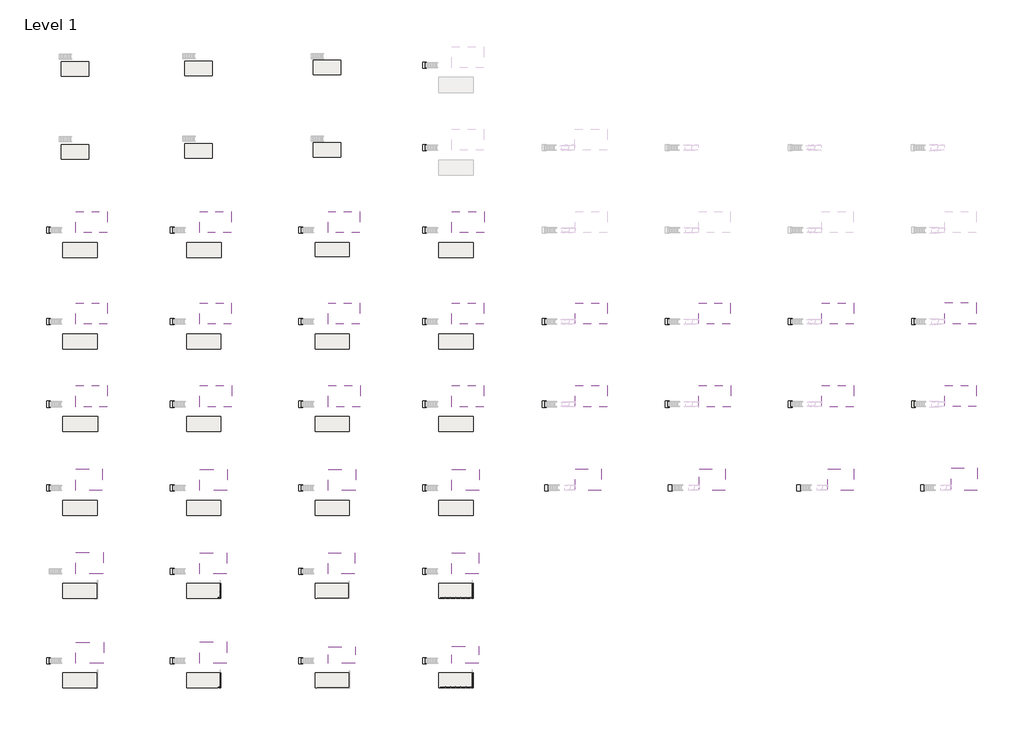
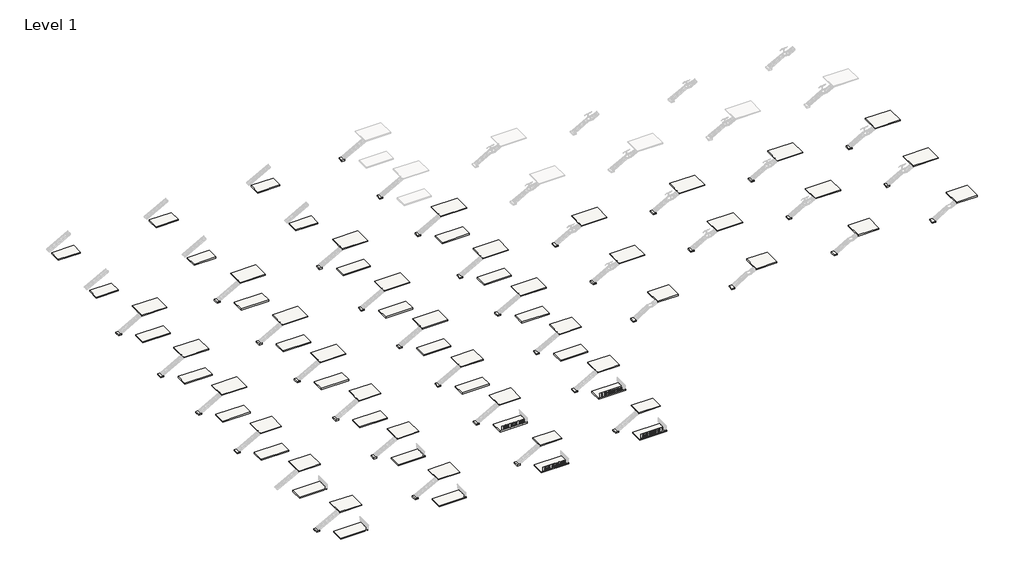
# One storey, part 1 of 36: 103 slabs.
"""IFC4 building model written with IfcOpenShell, lengths in millimetres."""

from ifc_helpers import new_model, si_unit, frame, origin, place, context, project, spatial, polyline, outline, extrude, element, save

model = new_model("IFC4")

# Units and contexts
model_context = context("Model", 3, world=origin())
ifc_project = project(units=[si_unit("LENGTHUNIT", "METRE", prefix="MILLI")], contexts=[model_context])

# Site, building, storey
site = spatial("IfcSite", under=ifc_project)
building = spatial("IfcBuilding", under=site)
storey = spatial("IfcBuildingStorey", under=building, Name="Level 1", Elevation=0.0)

# Slabs
placement = place(None, origin())
element("IfcSlab", 1, ObjectType="Generic", at=placement, inside=storey, context=model_context, shape_type="SweptSolid", body=[
    extrude(outline(polyline([(-2908.0966851, 15795.2395941), (-9164.1164794, 15795.2395941), (-9164.1164794, 19986.2395941), (-2908.0966851, 19986.2395941), (-2908.0966851, 15795.2395941)])), frame((0.0, 0.0, 2876.55), z_axis=(0.0, 0.0, 1.0), x_axis=(1.0, 0.0, 0.0)), (0.0, 0.0, 1.0), 171.45),
])
element("IfcSlab", 2, ObjectType="Generic", at=placement, inside=storey, context=model_context, shape_type="SweptSolid", body=[
    extrude(outline(polyline([(21837.4572927, 15795.2395941), (15512.8572927, 15795.2395941), (15512.8572927, 20018.7009998), (21837.4572927, 20018.7009998), (21837.4572927, 15795.2395941)])), frame((0.0, 0.0, 2876.55), z_axis=(0.0, 0.0, 1.0), x_axis=(1.0, 0.0, 0.0)), (0.0, 0.0, 1.0), 171.45),
])
element("IfcSlab", 3, ObjectType="Generic", at=placement, inside=storey, context=model_context, shape_type="SweptSolid", body=[
    extrude(outline(polyline([(47448.5953871, 15795.2395941), (41116.0572927, 15795.2395941), (41116.0572927, 20018.7009998), (47448.5953871, 20018.7009998), (47448.5953871, 15795.2395941)])), frame((0.0, 0.0, 2876.55), z_axis=(0.0, 0.0, 1.0), x_axis=(1.0, 0.0, 0.0)), (0.0, 0.0, 1.0), 171.45),
])
element("IfcSlab", 4, ObjectType="Generic", at=placement, inside=storey, context=model_context, shape_type="SweptSolid", body=[
    extrude(outline(polyline([(-3873.8536495, -35644.281782), (-9164.1164794, -35644.281782), (-9164.1164794, -31370.0203763), (-3873.8536495, -31370.0203763), (-3873.8536495, -35644.281782)])), frame((0.0, 0.0, 2876.55), z_axis=(0.0, 0.0, 1.0), x_axis=(1.0, 0.0, 0.0)), (0.0, 0.0, 1.0), 171.45),
])
element("IfcSlab", 5, ObjectType="Generic", at=placement, inside=storey, context=model_context, shape_type="SweptSolid", body=[
    extrude(outline(polyline([(46653.2578871, -35644.281782), (41116.0572927, -35644.281782), (41116.0572927, -31420.8203763), (46653.2578871, -31420.8203763), (46653.2578871, -35644.281782)])), frame((0.0, 0.0, 2876.55), z_axis=(0.0, 0.0, 1.0), x_axis=(1.0, 0.0, 0.0)), (0.0, 0.0, 1.0), 171.45),
])
element("IfcSlab", 6, ObjectType="Generic", at=placement, inside=storey, context=model_context, shape_type="SweptSolid", body=[
    extrude(outline(polyline([(21056.4072927, -35644.281782), (15512.8572927, -35644.281782), (15512.8572927, -31420.8203763), (21056.4072927, -31420.8203763), (21056.4072927, -35644.281782)])), frame((0.0, 0.0, 2876.55), z_axis=(0.0, 0.0, 1.0), x_axis=(1.0, 0.0, 0.0)), (0.0, 0.0, 1.0), 171.45),
])
element("IfcSlab", 7, ObjectType="Generic", at=placement, inside=storey, context=model_context, shape_type="SweptSolid", body=[
    extrude(outline(polyline([(-2909.3666851, -2451.5855758), (-9164.1164794, -2451.5855758), (-9164.1164794, 1816.6052299), (-2909.3666851, 1816.6052299), (-2909.3666851, -2451.5855758)])), frame((0.0, 0.0, 2876.55), z_axis=(0.0, 0.0, 1.0), x_axis=(1.0, 0.0, 0.0)), (0.0, 0.0, 1.0), 171.45),
])
element("IfcSlab", 8, ObjectType="Generic", at=placement, inside=storey, context=model_context, shape_type="SweptSolid", body=[
    extrude(outline(polyline([(47453.3572927, -2451.5855758), (41116.0572927, -2451.5855758), (41116.0572927, 1771.8758299), (47453.3572927, 1771.8758299), (47453.3572927, -2451.5855758)])), frame((0.0, 0.0, 2876.55), z_axis=(0.0, 0.0, 1.0), x_axis=(1.0, 0.0, 0.0)), (0.0, 0.0, 1.0), 171.45),
])
element("IfcSlab", 9, ObjectType="Generic", at=placement, inside=storey, context=model_context, shape_type="SweptSolid", body=[
    extrude(outline(polyline([(21862.8572927, -2451.5855758), (15512.8572927, -2451.5855758), (15512.8572927, 1771.8758299), (21862.8572927, 1771.8758299), (21862.8572927, -2451.5855758)])), frame((0.0, 0.0, 2876.55), z_axis=(0.0, 0.0, 1.0), x_axis=(1.0, 0.0, 0.0)), (0.0, 0.0, 1.0), 171.45),
])
element("IfcSlab", 10, ObjectType="Generic", at=placement, inside=storey, context=model_context, shape_type="SweptSolid", body=[
    extrude(outline(polyline([(-2909.3666851, -18919.4990002), (-9164.1164794, -18919.4990002), (-9164.1164794, -14651.3081945), (-2909.3666851, -14651.3081945), (-2909.3666851, -18919.4990002)])), frame((0.0, 0.0, 2876.55), z_axis=(0.0, 0.0, 1.0), x_axis=(1.0, 0.0, 0.0)), (0.0, 0.0, 1.0), 171.45),
])
element("IfcSlab", 11, ObjectType="Generic", at=placement, inside=storey, context=model_context, shape_type="SweptSolid", body=[
    extrude(outline(polyline([(47516.8572927, -18919.4990002), (41116.0572927, -18919.4990002), (41116.0572927, -14696.0375945), (47516.8572927, -14696.0375945), (47516.8572927, -18919.4990002)])), frame((0.0, 0.0, 2876.55), z_axis=(0.0, 0.0, 1.0), x_axis=(1.0, 0.0, 0.0)), (0.0, 0.0, 1.0), 171.45),
])
element("IfcSlab", 12, ObjectType="Generic", at=placement, inside=storey, context=model_context, shape_type="SweptSolid", body=[
    extrude(outline(polyline([(21913.6572927, -18919.4990002), (15512.8572927, -18919.4990002), (15512.8572927, -14696.0375945), (21913.6572927, -14696.0375945), (21913.6572927, -18919.4990002)])), frame((0.0, 0.0, 2876.55), z_axis=(0.0, 0.0, 1.0), x_axis=(1.0, 0.0, 0.0)), (0.0, 0.0, 1.0), 171.45),
])
element("IfcSlab", 13, ObjectType="Generic", at=placement, inside=storey, context=model_context, shape_type="SweptSolid", body=[
    extrude(outline(polyline([(-3722.1786462, -52244.4426165), (-9164.1164794, -52244.4426165), (-9164.1164794, -47976.2518108), (-3722.1786462, -47976.2518108), (-3722.1786462, -52244.4426165)])), frame((0.0, 0.0, 2876.55), z_axis=(0.0, 0.0, 1.0), x_axis=(1.0, 0.0, 0.0)), (0.0, 0.0, 1.0), 171.45),
])
element("IfcSlab", 14, ObjectType="Generic", at=placement, inside=storey, context=model_context, shape_type="SweptSolid", body=[
    extrude(outline(polyline([(46443.7072927, -52244.4426165), (41116.0572927, -52244.4426165), (41116.0572927, -48020.9812108), (46443.7072927, -48020.9812108), (46443.7072927, -52244.4426165)])), frame((0.0, 0.0, 2876.55), z_axis=(0.0, 0.0, 1.0), x_axis=(1.0, 0.0, 0.0)), (0.0, 0.0, 1.0), 171.45),
])
element("IfcSlab", 15, ObjectType="Generic", at=placement, inside=storey, context=model_context, shape_type="SweptSolid", body=[
    extrude(outline(polyline([(20923.0560986, -52244.4426165), (15512.8572927, -52244.4426165), (15512.8572927, -48020.9812108), (20923.0560986, -48020.9812108), (20923.0560986, -52244.4426165)])), frame((0.0, 0.0, 2876.55), z_axis=(0.0, 0.0, 1.0), x_axis=(1.0, 0.0, 0.0)), (0.0, 0.0, 1.0), 171.45),
])
element("IfcSlab", 16, ObjectType="Generic", at=placement, inside=storey, context=model_context, shape_type="SweptSolid", body=[
    extrude(outline(polyline([(-3625.656665, -70075.2426165), (-9164.1164794, -70075.2426165), (-9164.1164794, -65884.2426165), (-3625.656665, -65884.2426165), (-3625.656665, -70075.2426165)])), frame((0.0, 0.0, 2876.55), z_axis=(0.0, 0.0, 1.0), x_axis=(1.0, 0.0, 0.0)), (0.0, 0.0, 1.0), 171.45),
])
element("IfcSlab", 17, ObjectType="Generic", at=placement, inside=storey, context=model_context, shape_type="SweptSolid", body=[
    extrude(outline(polyline([(46546.9118702, -70075.2426165), (41116.0572927, -70075.2426165), (41116.0572927, -66773.2426165), (46546.9118702, -66773.2426165), (46546.9118702, -70075.2426165)])), frame((0.0, 0.0, 2876.55), z_axis=(0.0, 0.0, 1.0), x_axis=(1.0, 0.0, 0.0)), (0.0, 0.0, 1.0), 171.45),
])
element("IfcSlab", 18, ObjectType="Generic", at=placement, inside=storey, context=model_context, shape_type="SweptSolid", body=[
    extrude(outline(polyline([(20923.0560986, -70075.2426165), (15512.8572927, -70075.2426165), (15512.8572927, -65851.7812108), (20923.0560986, -65851.7812108), (20923.0560986, -70075.2426165)])), frame((0.0, 0.0, 2876.55), z_axis=(0.0, 0.0, 1.0), x_axis=(1.0, 0.0, 0.0)), (0.0, 0.0, 1.0), 171.45),
])
element("IfcSlab", 19, ObjectType="Generic", at=placement, inside=storey, context=model_context, shape_type="SweptSolid", body=[
    extrude(outline(polyline([(72270.0310647, 15795.2395941), (65793.0310647, 15795.2395941), (65793.0310647, 20018.7009998), (72270.0310647, 20018.7009998), (72270.0310647, 15795.2395941)])), frame((0.0, 0.0, 2876.55), z_axis=(0.0, 0.0, 1.0), x_axis=(1.0, 0.0, 0.0)), (0.0, 0.0, 1.0), 171.45),
])
element("IfcSlab", 20, ObjectType="Generic", at=placement, inside=storey, context=model_context, shape_type="SweptSolid", body=[
    extrude(outline(polyline([(71279.4310647, -35644.281782), (65793.0310647, -35644.281782), (65793.0310647, -31420.8203763), (71279.4310647, -31420.8203763), (71279.4310647, -35644.281782)])), frame((0.0, 0.0, 2876.55), z_axis=(0.0, 0.0, 1.0), x_axis=(1.0, 0.0, 0.0)), (0.0, 0.0, 1.0), 171.45),
])
element("IfcSlab", 21, ObjectType="Generic", at=placement, inside=storey, context=model_context, shape_type="SweptSolid", body=[
    extrude(outline(polyline([(72193.8310647, -2451.5855758), (65793.0310647, -2451.5855758), (65793.0310647, 1771.8758299), (72193.8310647, 1771.8758299), (72193.8310647, -2451.5855758)])), frame((0.0, 0.0, 2876.55), z_axis=(0.0, 0.0, 1.0), x_axis=(1.0, 0.0, 0.0)), (0.0, 0.0, 1.0), 171.45),
])
element("IfcSlab", 22, ObjectType="Generic", at=placement, inside=storey, context=model_context, shape_type="SweptSolid", body=[
    extrude(outline(polyline([(72168.4310647, -18919.4990002), (65793.0310647, -18919.4990002), (65793.0310647, -14696.0375945), (72168.4310647, -14696.0375945), (72168.4310647, -18919.4990002)])), frame((0.0, 0.0, 2876.55), z_axis=(0.0, 0.0, 1.0), x_axis=(1.0, 0.0, 0.0)), (0.0, 0.0, 1.0), 171.45),
])
element("IfcSlab", 23, ObjectType="Generic", at=placement, inside=storey, context=model_context, shape_type="SweptSolid", body=[
    extrude(outline(polyline([(71209.5810647, -52244.4426165), (65793.0310647, -52244.4426165), (65793.0310647, -48020.9812108), (71209.5810647, -48020.9812108), (71209.5810647, -52244.4426165)])), frame((0.0, 0.0, 2876.55), z_axis=(0.0, 0.0, 1.0), x_axis=(1.0, 0.0, 0.0)), (0.0, 0.0, 1.0), 171.45),
])
element("IfcSlab", 24, ObjectType="Generic", at=placement, inside=storey, context=model_context, shape_type="SweptSolid", body=[
    extrude(outline(polyline([(71203.2310647, -70075.2426165), (65793.0310647, -70075.2426165), (65793.0310647, -66722.4426165), (71203.2310647, -66722.4426165), (71203.2310647, -70075.2426165)])), frame((0.0, 0.0, 2876.55), z_axis=(0.0, 0.0, 1.0), x_axis=(1.0, 0.0, 0.0)), (0.0, 0.0, 1.0), 171.45),
])
element("IfcSlab", 25, ObjectType="Generic", at=placement, inside=storey, context=model_context, shape_type="SweptSolid", body=[
    extrude(outline(polyline([(96820.0048368, -18919.4990002), (90444.6048368, -18919.4990002), (90444.6048368, -14696.0375945), (96820.0048368, -14696.0375945), (96820.0048368, -18919.4990002)])), frame((0.0, 0.0, 2876.55), z_axis=(0.0, 0.0, 1.0), x_axis=(1.0, 0.0, 0.0)), (0.0, 0.0, 1.0), 171.45),
])
element("IfcSlab", 26, ObjectType="Generic", at=placement, inside=storey, context=model_context, shape_type="SweptSolid", body=[
    extrude(outline(polyline([(96820.0048368, -2451.5855758), (90444.6048368, -2451.5855758), (90444.6048368, 1771.8758299), (96820.0048368, 1771.8758299), (96820.0048368, -2451.5855758)])), frame((0.0, 0.0, 2876.55), z_axis=(0.0, 0.0, 1.0), x_axis=(1.0, 0.0, 0.0)), (0.0, 0.0, 1.0), 171.45),
])
element("IfcSlab", 27, ObjectType="Generic", at=placement, inside=storey, context=model_context, shape_type="SweptSolid", body=[
    extrude(outline(polyline([(121334.3736551, -2451.5855758), (114997.0736551, -2451.5855758), (114997.0736551, 1771.8758299), (121334.3736551, 1771.8758299), (121334.3736551, -2451.5855758)])), frame((0.0, 0.0, 2876.55), z_axis=(0.0, 0.0, 1.0), x_axis=(1.0, 0.0, 0.0)), (0.0, 0.0, 1.0), 171.45),
])
element("IfcSlab", 28, ObjectType="Generic", at=placement, inside=storey, context=model_context, shape_type="SweptSolid", body=[
    extrude(outline(polyline([(121397.8736551, -18919.4990002), (114997.0736551, -18919.4990002), (114997.0736551, -14696.0375945), (121397.8736551, -14696.0375945), (121397.8736551, -18919.4990002)])), frame((0.0, 0.0, 2876.55), z_axis=(0.0, 0.0, 1.0), x_axis=(1.0, 0.0, 0.0)), (0.0, 0.0, 1.0), 171.45),
])
element("IfcSlab", 29, ObjectType="Generic", at=placement, inside=storey, context=model_context, shape_type="SweptSolid", body=[
    extrude(outline(polyline([(145897.4072927, -2451.5855758), (139547.4072927, -2451.5855758), (139547.4072927, 1771.8758299), (145897.4072927, 1771.8758299), (145897.4072927, -2451.5855758)])), frame((0.0, 0.0, 2876.55), z_axis=(0.0, 0.0, 1.0), x_axis=(1.0, 0.0, 0.0)), (0.0, 0.0, 1.0), 171.45),
])
element("IfcSlab", 30, ObjectType="Generic", at=placement, inside=storey, context=model_context, shape_type="SweptSolid", body=[
    extrude(outline(polyline([(145948.2072927, -18919.4990002), (139547.4072927, -18919.4990002), (139547.4072927, -14696.0375945), (145948.2072927, -14696.0375945), (145948.2072927, -18919.4990002)])), frame((0.0, 0.0, 2876.55), z_axis=(0.0, 0.0, 1.0), x_axis=(1.0, 0.0, 0.0)), (0.0, 0.0, 1.0), 171.45),
])
element("IfcSlab", 31, ObjectType="Generic", at=placement, inside=storey, context=model_context, shape_type="SweptSolid", body=[
    extrude(outline(polyline([(170351.7709934, -2442.7711813), (164097.0211992, -2442.7711813), (164097.0211992, 1825.4196244), (170351.7709934, 1825.4196244), (170351.7709934, -2442.7711813)])), frame((0.0, 0.0, 2876.55), z_axis=(0.0, 0.0, 1.0), x_axis=(1.0, 0.0, 0.0)), (0.0, 0.0, 1.0), 171.45),
])
element("IfcSlab", 32, ObjectType="Generic", at=placement, inside=storey, context=model_context, shape_type="SweptSolid", body=[
    extrude(outline(polyline([(170351.7709934, -18910.6846057), (164097.0211992, -18910.6846057), (164097.0211992, -14642.4938), (170351.7709934, -14642.4938), (170351.7709934, -18910.6846057)])), frame((0.0, 0.0, 2876.55), z_axis=(0.0, 0.0, 1.0), x_axis=(1.0, 0.0, 0.0)), (0.0, 0.0, 1.0), 171.45),
])
element("IfcSlab", 33, ObjectType="Generic - 7 3/4\"", at=placement, inside=storey, context=model_context, shape_type="SweptSolid", body=[
    extrude(outline(polyline([(-4933.3882474, 10855.2487388), (-11740.5882474, 10855.2487388), (-11740.5882474, 13852.4487388), (-4933.3882474, 13852.4487388), (-4933.3882474, 10855.2487388)])), frame((0.0, 0.0, -296.7736), z_axis=(0.0, 0.0, 1.0), x_axis=(1.0, 0.0, 0.0)), (0.0, 0.0, 1.0), 296.7736),
])
element("IfcSlab", 34, ObjectType="Generic - 7 3/4\"", at=placement, inside=storey, context=model_context, shape_type="SweptSolid", body=[
    extrude(outline(polyline([(19819.7855247, 10855.2487388), (12936.3855247, 10855.2487388), (12936.3855247, 13852.4487388), (19819.7855247, 13852.4487388), (19819.7855247, 10855.2487388)])), frame((0.0, 0.0, -296.7736), z_axis=(0.0, 0.0, 1.0), x_axis=(1.0, 0.0, 0.0)), (0.0, 0.0, 1.0), 296.7736),
])
element("IfcSlab", 35, ObjectType="Generic - 7 3/4\"", at=placement, inside=storey, context=model_context, shape_type="SweptSolid", body=[
    extrude(outline(polyline([(45346.7861192, 11058.4481443), (38539.5855247, 11058.4481443), (38539.5855247, 13852.4487388), (45346.7861192, 13852.4487388), (45346.7861192, 11058.4481443)])), frame((0.0, 0.0, -296.7736), z_axis=(0.0, 0.0, 1.0), x_axis=(1.0, 0.0, 0.0)), (0.0, 0.0, 1.0), 296.7736),
])
element("IfcSlab", 36, ObjectType="Generic - 7 3/4\"", at=placement, inside=storey, context=model_context, shape_type="SweptSolid", body=[
    extrude(outline(polyline([(-4933.3882474, -40584.2726373), (-11740.5882474, -40584.2726373), (-11740.5882474, -37587.0726373), (-4933.3882474, -37587.0726373), (-4933.3882474, -40584.2726373)])), frame((0.0, 0.0, -296.7736), z_axis=(0.0, 0.0, 1.0), x_axis=(1.0, 0.0, 0.0)), (0.0, 0.0, 1.0), 296.7736),
])
element("IfcSlab", 37, ObjectType="Generic - 7 3/4\"", at=placement, inside=storey, context=model_context, shape_type="SweptSolid", body=[
    extrude(outline(polyline([(45346.7855247, -40584.2726373), (38539.5855247, -40584.2726373), (38539.5855247, -37587.0726373), (45346.7855247, -37587.0726373), (45346.7855247, -40584.2726373)])), frame((0.0, 0.0, -296.7736), z_axis=(0.0, 0.0, 1.0), x_axis=(1.0, 0.0, 0.0)), (0.0, 0.0, 1.0), 296.7736),
])
element("IfcSlab", 38, ObjectType="Generic - 7 3/4\"", at=placement, inside=storey, context=model_context, shape_type="SweptSolid", body=[
    extrude(outline(polyline([(19743.5855247, -40584.2726373), (12936.3855247, -40584.2726373), (12936.3855247, -37587.0726373), (19743.5855247, -37587.0726373), (19743.5855247, -40584.2726373)])), frame((0.0, 0.0, -296.7736), z_axis=(0.0, 0.0, 1.0), x_axis=(1.0, 0.0, 0.0)), (0.0, 0.0, 1.0), 296.7736),
])
element("IfcSlab", 39, ObjectType="Generic - 7 3/4\"", at=placement, inside=storey, context=model_context, shape_type="SweptSolid", body=[
    extrude(outline(polyline([(-4933.3882474, -7391.5764311), (-11740.5882474, -7391.5764311), (-11740.5882474, -4394.3764311), (-4933.3882474, -4394.3764311), (-4933.3882474, -7391.5764311)])), frame((0.0, 0.0, -296.7736), z_axis=(0.0, 0.0, 1.0), x_axis=(1.0, 0.0, 0.0)), (0.0, 0.0, 1.0), 296.7736),
])
element("IfcSlab", 40, ObjectType="Generic - 7 3/4\"", at=placement, inside=storey, context=model_context, shape_type="SweptSolid", body=[
    extrude(outline(polyline([(45346.7855247, -7391.5764311), (38539.5855247, -7391.5764311), (38539.5855247, -4394.3764311), (45346.7855247, -4394.3764311), (45346.7855247, -7391.5764311)])), frame((0.0, 0.0, -296.7736), z_axis=(0.0, 0.0, 1.0), x_axis=(1.0, 0.0, 0.0)), (0.0, 0.0, 1.0), 296.7736),
])
element("IfcSlab", 41, ObjectType="Generic - 7 3/4\"", at=placement, inside=storey, context=model_context, shape_type="SweptSolid", body=[
    extrude(outline(polyline([(19743.5855247, -7391.5764311), (12936.3855247, -7391.5764311), (12936.3855247, -4394.3764311), (19743.5855247, -4394.3764311), (19743.5855247, -7391.5764311)])), frame((0.0, 0.0, -296.7736), z_axis=(0.0, 0.0, 1.0), x_axis=(1.0, 0.0, 0.0)), (0.0, 0.0, 1.0), 296.7736),
])
element("IfcSlab", 42, ObjectType="Generic - 7 3/4\"", at=placement, inside=storey, context=model_context, shape_type="SweptSolid", body=[
    extrude(outline(polyline([(-4831.7884531, -23859.4898555), (-11740.5882474, -23859.4898555), (-11740.5882474, -20862.2898555), (-4831.7884531, -20862.2898555), (-4831.7884531, -23859.4898555)])), frame((0.0, 0.0, -296.7736), z_axis=(0.0, 0.0, 1.0), x_axis=(1.0, 0.0, 0.0)), (0.0, 0.0, 1.0), 296.7736),
])
element("IfcSlab", 43, ObjectType="Generic - 7 3/4\"", at=placement, inside=storey, context=model_context, shape_type="SweptSolid", body=[
    extrude(outline(polyline([(45346.7855247, -23859.4898555), (38539.5855247, -23859.4898555), (38539.5855247, -20862.2898555), (45346.7855247, -20862.2898555), (45346.7855247, -23859.4898555)])), frame((0.0, 0.0, -296.7736), z_axis=(0.0, 0.0, 1.0), x_axis=(1.0, 0.0, 0.0)), (0.0, 0.0, 1.0), 296.7736),
])
element("IfcSlab", 44, ObjectType="Generic - 7 3/4\"", at=placement, inside=storey, context=model_context, shape_type="SweptSolid", body=[
    extrude(outline(polyline([(19743.5855247, -23859.4898555), (12936.3855247, -23859.4898555), (12936.3855247, -20862.2898555), (19743.5855247, -20862.2898555), (19743.5855247, -23859.4898555)])), frame((0.0, 0.0, -296.7736), z_axis=(0.0, 0.0, 1.0), x_axis=(1.0, 0.0, 0.0)), (0.0, 0.0, 1.0), 296.7736),
])
element("IfcSlab", 45, ObjectType="Generic - 7 3/4\"", at=placement, inside=storey, context=model_context, shape_type="SweptSolid", body=[
    extrude(outline(polyline([(-4933.3882474, -57184.4334719), (-11740.5882474, -57184.4334719), (-11740.5882474, -54187.2334719), (-4933.3882474, -54187.2334719), (-4933.3882474, -57184.4334719)])), frame((0.0, 0.0, -296.7736), z_axis=(0.0, 0.0, 1.0), x_axis=(1.0, 0.0, 0.0)), (0.0, 0.0, 1.0), 296.7736),
])
element("IfcSlab", 46, ObjectType="Generic - 7 3/4\"", at=placement, inside=storey, context=model_context, shape_type="SweptSolid", body=[
    extrude(outline(polyline([(45346.7855247, -57184.4334719), (38539.5855247, -57184.4334719), (38539.5855247, -54187.2334719), (45346.7855247, -54187.2334719), (45346.7855247, -57184.4334719)])), frame((0.0, 0.0, -296.7736), z_axis=(0.0, 0.0, 1.0), x_axis=(1.0, 0.0, 0.0)), (0.0, 0.0, 1.0), 296.7736),
])
element("IfcSlab", 47, ObjectType="Generic - 7 3/4\"", at=placement, inside=storey, context=model_context, shape_type="SweptSolid", body=[
    extrude(outline(polyline([(19743.5855247, -57184.4334719), (12936.3855247, -57184.4334719), (12936.3855247, -54187.2334719), (19743.5855247, -54187.2334719), (19743.5855247, -57184.4334719)])), frame((0.0, 0.0, -296.7736), z_axis=(0.0, 0.0, 1.0), x_axis=(1.0, 0.0, 0.0)), (0.0, 0.0, 1.0), 296.7736),
])
element("IfcSlab", 48, ObjectType="Generic - 7 3/4\"", at=placement, inside=storey, context=model_context, shape_type="SweptSolid", body=[
    extrude(outline(polyline([(-4933.3882474, -75015.2334719), (-11740.5882474, -75015.2334719), (-11740.5882474, -72018.0334719), (-4933.3882474, -72018.0334719), (-4933.3882474, -75015.2334719)])), frame((0.0, 0.0, -296.7736), z_axis=(0.0, 0.0, 1.0), x_axis=(1.0, 0.0, 0.0)), (0.0, 0.0, 1.0), 296.7736),
])
element("IfcSlab", 49, ObjectType="Generic - 7 3/4\"", at=placement, inside=storey, context=model_context, shape_type="SweptSolid", body=[
    extrude(outline(polyline([(45346.7855247, -75015.2334719), (38539.5855247, -75015.2334719), (38539.5855247, -72018.0334719), (45346.7855247, -72018.0334719), (45346.7855247, -75015.2334719)])), frame((0.0, 0.0, -296.7736), z_axis=(0.0, 0.0, 1.0), x_axis=(1.0, 0.0, 0.0)), (0.0, 0.0, 1.0), 296.7736),
])
element("IfcSlab", 50, ObjectType="Generic - 7 3/4\"", at=placement, inside=storey, context=model_context, shape_type="SweptSolid", body=[
    extrude(outline(polyline([(19743.5855247, -75015.2334719), (12936.3855247, -75015.2334719), (12936.3855247, -72018.0334719), (19743.5855247, -72018.0334719), (19743.5855247, -75015.2334719)])), frame((0.0, 0.0, -296.7736), z_axis=(0.0, 0.0, 1.0), x_axis=(1.0, 0.0, 0.0)), (0.0, 0.0, 1.0), 296.7736),
])
element("IfcSlab", 51, ObjectType="Generic - 7 3/4\"", at=placement, inside=storey, context=model_context, shape_type="SweptSolid", body=[
    extrude(outline(polyline([(70099.9592968, 10848.2093665), (63216.5592968, 10848.2093665), (63216.5592968, 13852.4487388), (70099.9592968, 13852.4487388), (70099.9592968, 10848.2093665)])), frame((0.0, 0.0, -296.7736), z_axis=(0.0, 0.0, 1.0), x_axis=(1.0, 0.0, 0.0)), (0.0, 0.0, 1.0), 296.7736),
])
element("IfcSlab", 52, ObjectType="Generic - 7 3/4\"", at=placement, inside=storey, context=model_context, shape_type="SweptSolid", body=[
    extrude(outline(polyline([(70023.7592968, -40584.2726373), (63216.5592968, -40584.2726373), (63216.5592968, -37587.0726373), (70023.7592968, -37587.0726373), (70023.7592968, -40584.2726373)])), frame((0.0, 0.0, -296.7736), z_axis=(0.0, 0.0, 1.0), x_axis=(1.0, 0.0, 0.0)), (0.0, 0.0, 1.0), 296.7736),
])
element("IfcSlab", 53, ObjectType="Generic - 7 3/4\"", at=placement, inside=storey, context=model_context, shape_type="SweptSolid", body=[
    extrude(outline(polyline([(70023.7592968, -7391.5764311), (63216.5592968, -7391.5764311), (63216.5592968, -4394.3764311), (70023.7592968, -4394.3764311), (70023.7592968, -7391.5764311)])), frame((0.0, 0.0, -296.7736), z_axis=(0.0, 0.0, 1.0), x_axis=(1.0, 0.0, 0.0)), (0.0, 0.0, 1.0), 296.7736),
])
element("IfcSlab", 54, ObjectType="Generic - 7 3/4\"", at=placement, inside=storey, context=model_context, shape_type="SweptSolid", body=[
    extrude(outline(polyline([(70023.7592968, -23859.4898555), (63216.5592968, -23859.4898555), (63216.5592968, -20862.2898555), (70023.7592968, -20862.2898555), (70023.7592968, -23859.4898555)])), frame((0.0, 0.0, -296.7736), z_axis=(0.0, 0.0, 1.0), x_axis=(1.0, 0.0, 0.0)), (0.0, 0.0, 1.0), 296.7736),
])
element("IfcSlab", 55, ObjectType="Generic - 7 3/4\"", at=placement, inside=storey, context=model_context, shape_type="SweptSolid", body=[
    extrude(outline(polyline([(70023.7592968, -57184.4334719), (63216.5592968, -57184.4334719), (63216.5592968, -54187.2334719), (70023.7592968, -54187.2334719), (70023.7592968, -57184.4334719)])), frame((0.0, 0.0, -296.7736), z_axis=(0.0, 0.0, 1.0), x_axis=(1.0, 0.0, 0.0)), (0.0, 0.0, 1.0), 296.7736),
])
element("IfcSlab", 56, ObjectType="Generic - 7 3/4\"", at=placement, inside=storey, context=model_context, shape_type="SweptSolid", body=[
    extrude(outline(polyline([(70023.7592968, -75015.2334719), (63216.5592968, -75015.2334719), (63216.5592968, -72018.0334719), (70023.7592968, -72018.0334719), (70023.7592968, -75015.2334719)])), frame((0.0, 0.0, -296.7736), z_axis=(0.0, 0.0, 1.0), x_axis=(1.0, 0.0, 0.0)), (0.0, 0.0, 1.0), 296.7736),
])
element("IfcSlab", 57, ObjectType="Generic - 7 3/4\"", at=placement, inside=storey, context=model_context, shape_type="SweptSolid", body=[
    extrude(outline(polyline([(-14244.2503044, -19021.0990002), (-15006.2503044, -19021.0990002), (-15006.2503044, -17801.8990002), (-14244.2503044, -17801.8990002), (-14244.2503044, -19021.0990002)])), frame((0.0, 0.0, -296.7736), z_axis=(0.0, 0.0, 1.0), x_axis=(1.0, 0.0, 0.0)), (0.0, 0.0, 1.0), 296.7736),
])
element("IfcSlab", 58, ObjectType="Generic - 7 3/4\"", at=placement, inside=storey, context=model_context, shape_type="SweptSolid", body=[
    extrude(outline(polyline([(-14244.2503044, -2553.1855758), (-15006.2503044, -2553.1855758), (-15006.2503044, -1333.9855758), (-14244.2503044, -1333.9855758), (-14244.2503044, -2553.1855758)])), frame((0.0, 0.0, -296.7736), z_axis=(0.0, 0.0, 1.0), x_axis=(1.0, 0.0, 0.0)), (0.0, 0.0, 1.0), 296.7736),
])
element("IfcSlab", 59, ObjectType="Generic - 7 3/4\"", at=placement, inside=storey, context=model_context, shape_type="SweptSolid", body=[
    extrude(outline(polyline([(-14244.2503044, 15693.6395941), (-15006.2503044, 15693.6395941), (-15006.2503044, 16912.8395941), (-14244.2503044, 16912.8395941), (-14244.2503044, 15693.6395941)])), frame((0.0, 0.0, -296.7736), z_axis=(0.0, 0.0, 1.0), x_axis=(1.0, 0.0, 0.0)), (0.0, 0.0, 1.0), 296.7736),
])
element("IfcSlab", 60, ObjectType="Generic - 7 3/4\"", at=placement, inside=storey, context=model_context, shape_type="SweptSolid", body=[
    extrude(outline(polyline([(10432.7234676, 15693.6395941), (9670.7234676, 15693.6395941), (9670.7234676, 16912.8395941), (10432.7234676, 16912.8395941), (10432.7234676, 15693.6395941)])), frame((0.0, 0.0, -296.7736), z_axis=(0.0, 0.0, 1.0), x_axis=(1.0, 0.0, 0.0)), (0.0, 0.0, 1.0), 296.7736),
])
element("IfcSlab", 61, ObjectType="Generic - 7 3/4\"", at=placement, inside=storey, context=model_context, shape_type="SweptSolid", body=[
    extrude(outline(polyline([(36035.9234676, 15693.6395941), (35273.9234676, 15693.6395941), (35273.9234676, 16912.8395941), (36035.9234676, 16912.8395941), (36035.9234676, 15693.6395941)])), frame((0.0, 0.0, -296.7736), z_axis=(0.0, 0.0, 1.0), x_axis=(1.0, 0.0, 0.0)), (0.0, 0.0, 1.0), 296.7736),
])
element("IfcSlab", 62, ObjectType="Generic - 7 3/4\"", at=placement, inside=storey, context=model_context, shape_type="SweptSolid", body=[
    extrude(outline(polyline([(60712.8972397, 15693.6395941), (59950.8972397, 15693.6395941), (59950.8972397, 16912.8395941), (60712.8972397, 16912.8395941), (60712.8972397, 15693.6395941)])), frame((0.0, 0.0, -296.7736), z_axis=(0.0, 0.0, 1.0), x_axis=(1.0, 0.0, 0.0)), (0.0, 0.0, 1.0), 296.7736),
])
element("IfcSlab", 63, ObjectType="Generic - 7 3/4\"", at=placement, inside=storey, context=model_context, shape_type="SweptSolid", body=[
    extrude(outline(polyline([(10432.7234676, -2553.1855758), (9670.7234676, -2553.1855758), (9670.7234676, -1333.9855758), (10432.7234676, -1333.9855758), (10432.7234676, -2553.1855758)])), frame((0.0, 0.0, -296.7736), z_axis=(0.0, 0.0, 1.0), x_axis=(1.0, 0.0, 0.0)), (0.0, 0.0, 1.0), 296.7736),
])
element("IfcSlab", 64, ObjectType="Generic - 7 3/4\"", at=placement, inside=storey, context=model_context, shape_type="SweptSolid", body=[
    extrude(outline(polyline([(36035.9234676, -2553.1855758), (35273.9234676, -2553.1855758), (35273.9234676, -1333.9855758), (36035.9234676, -1333.9855758), (36035.9234676, -2553.1855758)])), frame((0.0, 0.0, -296.7736), z_axis=(0.0, 0.0, 1.0), x_axis=(1.0, 0.0, 0.0)), (0.0, 0.0, 1.0), 296.7736),
])
element("IfcSlab", 65, ObjectType="Generic - 7 3/4\"", at=placement, inside=storey, context=model_context, shape_type="SweptSolid", body=[
    extrude(outline(polyline([(60712.8972397, -2553.1855758), (59950.8972397, -2553.1855758), (59950.8972397, -1333.9855758), (60712.8972397, -1333.9855758), (60712.8972397, -2553.1855758)])), frame((0.0, 0.0, -296.7736), z_axis=(0.0, 0.0, 1.0), x_axis=(1.0, 0.0, 0.0)), (0.0, 0.0, 1.0), 296.7736),
])
element("IfcSlab", 66, ObjectType="Generic - 7 3/4\"", at=placement, inside=storey, context=model_context, shape_type="SweptSolid", body=[
    extrude(outline(polyline([(10432.7234676, -19021.0990002), (9670.7234676, -19021.0990002), (9670.7234676, -17801.8990002), (10432.7234676, -17801.8990002), (10432.7234676, -19021.0990002)])), frame((0.0, 0.0, -296.7736), z_axis=(0.0, 0.0, 1.0), x_axis=(1.0, 0.0, 0.0)), (0.0, 0.0, 1.0), 296.7736),
])
element("IfcSlab", 67, ObjectType="Generic - 7 3/4\"", at=placement, inside=storey, context=model_context, shape_type="SweptSolid", body=[
    extrude(outline(polyline([(36035.9234676, -19021.0990002), (35273.9234676, -19021.0990002), (35273.9234676, -17801.8990002), (36035.9234676, -17801.8990002), (36035.9234676, -19021.0990002)])), frame((0.0, 0.0, -296.7736), z_axis=(0.0, 0.0, 1.0), x_axis=(1.0, 0.0, 0.0)), (0.0, 0.0, 1.0), 296.7736),
])
element("IfcSlab", 68, ObjectType="Generic - 7 3/4\"", at=placement, inside=storey, context=model_context, shape_type="SweptSolid", body=[
    extrude(outline(polyline([(60712.8972397, -19021.0990002), (59950.8972397, -19021.0990002), (59950.8972397, -17801.8990002), (60712.8972397, -17801.8990002), (60712.8972397, -19021.0990002)])), frame((0.0, 0.0, -296.7736), z_axis=(0.0, 0.0, 1.0), x_axis=(1.0, 0.0, 0.0)), (0.0, 0.0, 1.0), 296.7736),
])
element("IfcSlab", 69, ObjectType="Generic - 7 3/4\"", at=placement, inside=storey, context=model_context, shape_type="SweptSolid", body=[
    extrude(outline(polyline([(-14244.2503044, -35745.881782), (-15006.2503044, -35745.881782), (-15006.2503044, -34526.681782), (-14244.2503044, -34526.681782), (-14244.2503044, -35745.881782)])), frame((0.0, 0.0, -296.7736), z_axis=(0.0, 0.0, 1.0), x_axis=(1.0, 0.0, 0.0)), (0.0, 0.0, 1.0), 296.7736),
])
element("IfcSlab", 70, ObjectType="Generic - 7 3/4\"", at=placement, inside=storey, context=model_context, shape_type="SweptSolid", body=[
    extrude(outline(polyline([(10432.7234676, -35745.881782), (9670.7234676, -35745.881782), (9670.7234676, -34526.681782), (10432.7234676, -34526.681782), (10432.7234676, -35745.881782)])), frame((0.0, 0.0, -296.7736), z_axis=(0.0, 0.0, 1.0), x_axis=(1.0, 0.0, 0.0)), (0.0, 0.0, 1.0), 296.7736),
])
element("IfcSlab", 71, ObjectType="Generic - 7 3/4\"", at=placement, inside=storey, context=model_context, shape_type="SweptSolid", body=[
    extrude(outline(polyline([(36035.9234676, -35745.881782), (35273.9234676, -35745.881782), (35273.9234676, -34526.681782), (36035.9234676, -34526.681782), (36035.9234676, -35745.881782)])), frame((0.0, 0.0, -296.7736), z_axis=(0.0, 0.0, 1.0), x_axis=(1.0, 0.0, 0.0)), (0.0, 0.0, 1.0), 296.7736),
])
element("IfcSlab", 72, ObjectType="Generic - 7 3/4\"", at=placement, inside=storey, context=model_context, shape_type="SweptSolid", body=[
    extrude(outline(polyline([(60712.8972397, -35745.881782), (59950.8972397, -35745.881782), (59950.8972397, -34526.681782), (60712.8972397, -34526.681782), (60712.8972397, -35745.881782)])), frame((0.0, 0.0, -296.7736), z_axis=(0.0, 0.0, 1.0), x_axis=(1.0, 0.0, 0.0)), (0.0, 0.0, 1.0), 296.7736),
])
element("IfcSlab", 73, ObjectType="Generic - 7 3/4\"", at=placement, inside=storey, context=model_context, shape_type="SweptSolid", body=[
    extrude(outline(polyline([(10432.7234676, -52346.0426165), (9670.7234676, -52346.0426165), (9670.7234676, -51126.8426165), (10432.7234676, -51126.8426165), (10432.7234676, -52346.0426165)])), frame((0.0, 0.0, -296.7736), z_axis=(0.0, 0.0, 1.0), x_axis=(1.0, 0.0, 0.0)), (0.0, 0.0, 1.0), 296.7736),
])
element("IfcSlab", 74, ObjectType="Generic - 7 3/4\"", at=placement, inside=storey, context=model_context, shape_type="SweptSolid", body=[
    extrude(outline(polyline([(36035.9234676, -52346.0426165), (35273.9234676, -52346.0426165), (35273.9234676, -51126.8426165), (36035.9234676, -51126.8426165), (36035.9234676, -52346.0426165)])), frame((0.0, 0.0, -296.7736), z_axis=(0.0, 0.0, 1.0), x_axis=(1.0, 0.0, 0.0)), (0.0, 0.0, 1.0), 296.7736),
])
element("IfcSlab", 75, ObjectType="Generic - 7 3/4\"", at=placement, inside=storey, context=model_context, shape_type="SweptSolid", body=[
    extrude(outline(polyline([(60712.8972397, -52346.0426165), (59950.8972397, -52346.0426165), (59950.8972397, -51126.8426165), (60712.8972397, -51126.8426165), (60712.8972397, -52346.0426165)])), frame((0.0, 0.0, -296.7736), z_axis=(0.0, 0.0, 1.0), x_axis=(1.0, 0.0, 0.0)), (0.0, 0.0, 1.0), 296.7736),
])
element("IfcSlab", 76, ObjectType="Generic - 7 3/4\"", at=placement, inside=storey, context=model_context, shape_type="SweptSolid", body=[
    extrude(outline(polyline([(-14244.2503044, -70176.8426165), (-15006.2503044, -70176.8426165), (-15006.2503044, -68957.6426165), (-14244.2503044, -68957.6426165), (-14244.2503044, -70176.8426165)])), frame((0.0, 0.0, -296.7736), z_axis=(0.0, 0.0, 1.0), x_axis=(1.0, 0.0, 0.0)), (0.0, 0.0, 1.0), 296.7736),
])
element("IfcSlab", 77, ObjectType="Generic - 7 3/4\"", at=placement, inside=storey, context=model_context, shape_type="SweptSolid", body=[
    extrude(outline(polyline([(10432.7234676, -70176.8426165), (9670.7234676, -70176.8426165), (9670.7234676, -68957.6426165), (10432.7234676, -68957.6426165), (10432.7234676, -70176.8426165)])), frame((0.0, 0.0, -296.7736), z_axis=(0.0, 0.0, 1.0), x_axis=(1.0, 0.0, 0.0)), (0.0, 0.0, 1.0), 296.7736),
])
element("IfcSlab", 78, ObjectType="Generic - 7 3/4\"", at=placement, inside=storey, context=model_context, shape_type="SweptSolid", body=[
    extrude(outline(polyline([(36035.9234676, -70176.8426165), (35273.9234676, -70176.8426165), (35273.9234676, -68957.6426165), (36035.9234676, -68957.6426165), (36035.9234676, -70176.8426165)])), frame((0.0, 0.0, -296.7736), z_axis=(0.0, 0.0, 1.0), x_axis=(1.0, 0.0, 0.0)), (0.0, 0.0, 1.0), 296.7736),
])
element("IfcSlab", 79, ObjectType="Generic - 7 3/4\"", at=placement, inside=storey, context=model_context, shape_type="SweptSolid", body=[
    extrude(outline(polyline([(60712.8972397, -70176.8426165), (59950.8972397, -70176.8426165), (59950.8972397, -68957.6426165), (60712.8972397, -68957.6426165), (60712.8972397, -70176.8426165)])), frame((0.0, 0.0, -296.7736), z_axis=(0.0, 0.0, 1.0), x_axis=(1.0, 0.0, 0.0)), (0.0, 0.0, 1.0), 296.7736),
])
element("IfcSlab", 80, ObjectType="Generic - 7 3/4\"", at=placement, inside=storey, context=model_context, shape_type="SweptSolid", body=[
    extrude(outline(polyline([(-6578.4982516, 30525.3277958), (-12064.8982516, 30525.3277958), (-12064.8982516, 33420.9277958), (-6578.4982516, 33420.9277958), (-6578.4982516, 30525.3277958)])), frame((0.0, 0.0, -296.7736), z_axis=(0.0, 0.0, 1.0), x_axis=(1.0, 0.0, 0.0)), (0.0, 0.0, 1.0), 296.7736),
])
element("IfcSlab", 81, ObjectType="Generic - 7 3/4\"", at=placement, inside=storey, context=model_context, shape_type="SweptSolid", body=[
    extrude(outline(polyline([(17997.4134102, 30653.3186015), (12511.0134102, 30653.3186015), (12511.0134102, 33548.9186015), (17997.4134102, 33548.9186015), (17997.4134102, 30653.3186015)])), frame((0.0, 0.0, -296.7736), z_axis=(0.0, 0.0, 1.0), x_axis=(1.0, 0.0, 0.0)), (0.0, 0.0, 1.0), 296.7736),
])
element("IfcSlab", 82, ObjectType="Generic - 7 3/4\"", at=placement, inside=storey, context=model_context, shape_type="SweptSolid", body=[
    extrude(outline(polyline([(43662.5259102, 30882.3308595), (38176.1259102, 30882.3308595), (38176.1259102, 33777.9308595), (43662.5259102, 33777.9308595), (43662.5259102, 30882.3308595)])), frame((0.0, 0.0, -296.7736), z_axis=(0.0, 0.0, 1.0), x_axis=(1.0, 0.0, 0.0)), (0.0, 0.0, 1.0), 296.7736),
])
element("IfcSlab", 83, ObjectType="Generic - 7 3/4\"", at=placement, inside=storey, context=model_context, shape_type="SweptSolid", body=[
    extrude(outline(polyline([(60712.8972397, 32161.5530185), (59950.8972397, 32161.5530185), (59950.8972397, 33380.7530185), (60712.8972397, 33380.7530185), (60712.8972397, 32161.5530185)])), frame((0.0, 0.0, -296.7736), z_axis=(0.0, 0.0, 1.0), x_axis=(1.0, 0.0, 0.0)), (0.0, 0.0, 1.0), 296.7736),
])
element("IfcSlab", 84, ObjectType="Generic - 7 3/4\"", at=placement, inside=storey, context=model_context, shape_type="SweptSolid", body=[
    extrude(outline(polyline([(-6578.4982516, 46993.2412202), (-12064.8982516, 46993.2412202), (-12064.8982516, 49888.8412202), (-6578.4982516, 49888.8412202), (-6578.4982516, 46993.2412202)])), frame((0.0, 0.0, -296.7736), z_axis=(0.0, 0.0, 1.0), x_axis=(1.0, 0.0, 0.0)), (0.0, 0.0, 1.0), 296.7736),
])
element("IfcSlab", 85, ObjectType="Generic - 7 3/4\"", at=placement, inside=storey, context=model_context, shape_type="SweptSolid", body=[
    extrude(outline(polyline([(17997.4134102, 47121.2320259), (12511.0134102, 47121.2320259), (12511.0134102, 50016.8320259), (17997.4134102, 50016.8320259), (17997.4134102, 47121.2320259)])), frame((0.0, 0.0, -296.7736), z_axis=(0.0, 0.0, 1.0), x_axis=(1.0, 0.0, 0.0)), (0.0, 0.0, 1.0), 296.7736),
])
element("IfcSlab", 86, ObjectType="Generic - 7 3/4\"", at=placement, inside=storey, context=model_context, shape_type="SweptSolid", body=[
    extrude(outline(polyline([(43662.5259102, 47350.2442839), (38176.1259102, 47350.2442839), (38176.1259102, 50245.8442839), (43662.5259102, 50245.8442839), (43662.5259102, 47350.2442839)])), frame((0.0, 0.0, -296.7736), z_axis=(0.0, 0.0, 1.0), x_axis=(1.0, 0.0, 0.0)), (0.0, 0.0, 1.0), 296.7736),
])
element("IfcSlab", 87, ObjectType="Generic - 7 3/4\"", at=placement, inside=storey, context=model_context, shape_type="SweptSolid", body=[
    extrude(outline(polyline([(60712.8972397, 48629.4664429), (59950.8972397, 48629.4664429), (59950.8972397, 49848.6664429), (60712.8972397, 49848.6664429), (60712.8972397, 48629.4664429)])), frame((0.0, 0.0, -296.7736), z_axis=(0.0, 0.0, 1.0), x_axis=(1.0, 0.0, 0.0)), (0.0, 0.0, 1.0), 296.7736),
])
element("IfcSlab", 88, ObjectType="Generic - 7 3/4\"", at=placement, inside=storey, context=model_context, shape_type="SweptSolid", body=[
    extrude(outline(polyline([(84574.7335615, -19021.0990002), (83812.7335615, -19021.0990002), (83812.7335615, -17801.8990002), (84574.7335615, -17801.8990002), (84574.7335615, -19021.0990002)])), frame((0.0, 0.0, -296.7736), z_axis=(0.0, 0.0, 1.0), x_axis=(1.0, 0.0, 0.0)), (0.0, 0.0, 1.0), 296.7736),
])
element("IfcSlab", 89, ObjectType="Generic - 7 3/4\"", at=placement, inside=storey, context=model_context, shape_type="SweptSolid", body=[
    extrude(outline(polyline([(109124.7073335, -19021.0990002), (108362.7073335, -19021.0990002), (108362.7073335, -17801.8990002), (109124.7073335, -17801.8990002), (109124.7073335, -19021.0990002)])), frame((0.0, 0.0, -296.7736), z_axis=(0.0, 0.0, 1.0), x_axis=(1.0, 0.0, 0.0)), (0.0, 0.0, 1.0), 296.7736),
])
element("IfcSlab", 90, ObjectType="Generic - 7 3/4\"", at=placement, inside=storey, context=model_context, shape_type="SweptSolid", body=[
    extrude(outline(polyline([(84574.7335615, -2553.1855758), (83812.7335615, -2553.1855758), (83812.7335615, -1333.9855758), (84574.7335615, -1333.9855758), (84574.7335615, -2553.1855758)])), frame((0.0, 0.0, -296.7736), z_axis=(0.0, 0.0, 1.0), x_axis=(1.0, 0.0, 0.0)), (0.0, 0.0, 1.0), 296.7736),
])
element("IfcSlab", 91, ObjectType="Generic - 7 3/4\"", at=placement, inside=storey, context=model_context, shape_type="SweptSolid", body=[
    extrude(outline(polyline([(109124.7073335, -2553.1855758), (108362.7073335, -2553.1855758), (108362.7073335, -1333.9855758), (109124.7073335, -1333.9855758), (109124.7073335, -2553.1855758)])), frame((0.0, 0.0, -296.7736), z_axis=(0.0, 0.0, 1.0), x_axis=(1.0, 0.0, 0.0)), (0.0, 0.0, 1.0), 296.7736),
])
element("IfcSlab", 92, ObjectType="Generic - 7 3/4\"", at=placement, inside=storey, context=model_context, shape_type="SweptSolid", body=[
    extrude(outline(polyline([(133674.6811056, -19021.0990002), (132912.6811056, -19021.0990002), (132912.6811056, -17801.8990002), (133674.6811056, -17801.8990002), (133674.6811056, -19021.0990002)])), frame((0.0, 0.0, -296.7736), z_axis=(0.0, 0.0, 1.0), x_axis=(1.0, 0.0, 0.0)), (0.0, 0.0, 1.0), 296.7736),
])
element("IfcSlab", 93, ObjectType="Generic - 7 3/4\"", at=placement, inside=storey, context=model_context, shape_type="SweptSolid", body=[
    extrude(outline(polyline([(133674.6811056, -2553.1855758), (132912.6811056, -2553.1855758), (132912.6811056, -1333.9855758), (133674.6811056, -1333.9855758), (133674.6811056, -2553.1855758)])), frame((0.0, 0.0, -296.7736), z_axis=(0.0, 0.0, 1.0), x_axis=(1.0, 0.0, 0.0)), (0.0, 0.0, 1.0), 296.7736),
])
element("IfcSlab", 94, ObjectType="Generic - 7 3/4\"", at=placement, inside=storey, context=model_context, shape_type="SweptSolid", body=[
    extrude(outline(polyline([(158224.6548776, -19021.0990002), (157462.6548776, -19021.0990002), (157462.6548776, -17801.8990002), (158224.6548776, -17801.8990002), (158224.6548776, -19021.0990002)])), frame((0.0, 0.0, -296.7736), z_axis=(0.0, 0.0, 1.0), x_axis=(1.0, 0.0, 0.0)), (0.0, 0.0, 1.0), 296.7736),
])
element("IfcSlab", 95, ObjectType="Generic - 7 3/4\"", at=placement, inside=storey, context=model_context, shape_type="SweptSolid", body=[
    extrude(outline(polyline([(158224.6548776, -2553.1855758), (157462.6548776, -2553.1855758), (157462.6548776, -1333.9855758), (158224.6548776, -1333.9855758), (158224.6548776, -2553.1855758)])), frame((0.0, 0.0, -296.7736), z_axis=(0.0, 0.0, 1.0), x_axis=(1.0, 0.0, 0.0)), (0.0, 0.0, 1.0), 296.7736),
])
element("IfcSlab", 96, ObjectType="Generic - 7 3/4\"", at=placement, inside=storey, context=model_context, shape_type="SweptSolid", body=[
    extrude(outline(polyline([(85067.1983997, -35685.7317839), (84305.1983997, -35685.7317839), (84305.1983997, -34466.5317839), (85067.1983997, -34466.5317839), (85067.1983997, -35685.7317839)])), frame((0.0, 0.0, -296.7736), z_axis=(0.0, 0.0, 1.0), x_axis=(1.0, 0.0, 0.0)), (0.0, 0.0, 1.0), 296.7736),
])
element("IfcSlab", 97, ObjectType="Generic - 7 3/4\"", at=placement, inside=storey, context=model_context, shape_type="SweptSolid", body=[
    extrude(outline(polyline([(95638.5647213, -35575.3173894), (90431.5647213, -35575.3173894), (90431.5647213, -31351.8559837), (95638.5647213, -31351.8559837), (95638.5647213, -35575.3173894)])), frame((0.0, 0.0, 2751.2264), z_axis=(0.0, 0.0, 1.0), x_axis=(1.0, 0.0, 0.0)), (0.0, 0.0, 1.0), 296.7736),
])
element("IfcSlab", 98, ObjectType="Generic - 7 3/4\"", at=placement, inside=storey, context=model_context, shape_type="SweptSolid", body=[
    extrude(outline(polyline([(109744.1721718, -35685.7317839), (108982.1721718, -35685.7317839), (108982.1721718, -34466.5317839), (109744.1721718, -34466.5317839), (109744.1721718, -35685.7317839)])), frame((0.0, 0.0, -296.7736), z_axis=(0.0, 0.0, 1.0), x_axis=(1.0, 0.0, 0.0)), (0.0, 0.0, 1.0), 296.7736),
])
element("IfcSlab", 99, ObjectType="Generic - 7 3/4\"", at=placement, inside=storey, context=model_context, shape_type="SweptSolid", body=[
    extrude(outline(polyline([(120315.5384933, -35575.3173894), (115108.5384933, -35575.3173894), (115108.5384933, -34559.3173894), (115172.0384933, -34559.3173894), (115172.0384933, -31351.8559837), (120315.5384933, -31351.8559837), (120315.5384933, -35575.3173894)])), frame((0.0, 0.0, 2751.2264), z_axis=(0.0, 0.0, 1.0), x_axis=(1.0, 0.0, 0.0)), (0.0, 0.0, 1.0), 296.7736),
])
element("IfcSlab", 100, ObjectType="Generic - 7 3/4\"", at=placement, inside=storey, context=model_context, shape_type="SweptSolid", body=[
    extrude(outline(polyline([(135347.3721718, -35685.7317839), (134585.3721718, -35685.7317839), (134585.3721718, -34466.5317839), (135347.3721718, -34466.5317839), (135347.3721718, -35685.7317839)])), frame((0.0, 0.0, -296.7736), z_axis=(0.0, 0.0, 1.0), x_axis=(1.0, 0.0, 0.0)), (0.0, 0.0, 1.0), 296.7736),
])
element("IfcSlab", 101, ObjectType="Generic - 7 3/4\"", at=placement, inside=storey, context=model_context, shape_type="SweptSolid", body=[
    extrude(outline(polyline([(145918.7384933, -35575.3173894), (140711.7384933, -35575.3173894), (140711.7384933, -31351.8559837), (145918.7384933, -31351.8559837), (145918.7384933, -35575.3173894)])), frame((0.0, 0.0, 2751.2264), z_axis=(0.0, 0.0, 1.0), x_axis=(1.0, 0.0, 0.0)), (0.0, 0.0, 1.0), 296.7736),
])
element("IfcSlab", 102, ObjectType="Generic - 7 3/4\"", at=placement, inside=storey, context=model_context, shape_type="SweptSolid", body=[
    extrude(outline(polyline([(160024.3459438, -35685.7317839), (159262.3459438, -35685.7317839), (159262.3459438, -34466.5317839), (160024.3459438, -34466.5317839), (160024.3459438, -35685.7317839)])), frame((0.0, 0.0, -296.7736), z_axis=(0.0, 0.0, 1.0), x_axis=(1.0, 0.0, 0.0)), (0.0, 0.0, 1.0), 296.7736),
])
element("IfcSlab", 103, ObjectType="Generic - 7 3/4\"", at=placement, inside=storey, context=model_context, shape_type="SweptSolid", body=[
    extrude(outline(polyline([(170595.7122654, -35575.3173894), (165388.7122654, -35575.3173894), (165388.7122654, -31155.7173894), (170595.7122654, -31155.7173894), (170595.7122654, -35575.3173894)])), frame((0.0, 0.0, 2751.2264), z_axis=(0.0, 0.0, 1.0), x_axis=(1.0, 0.0, 0.0)), (0.0, 0.0, 1.0), 296.7736),
])

save(model, "model.ifc")
